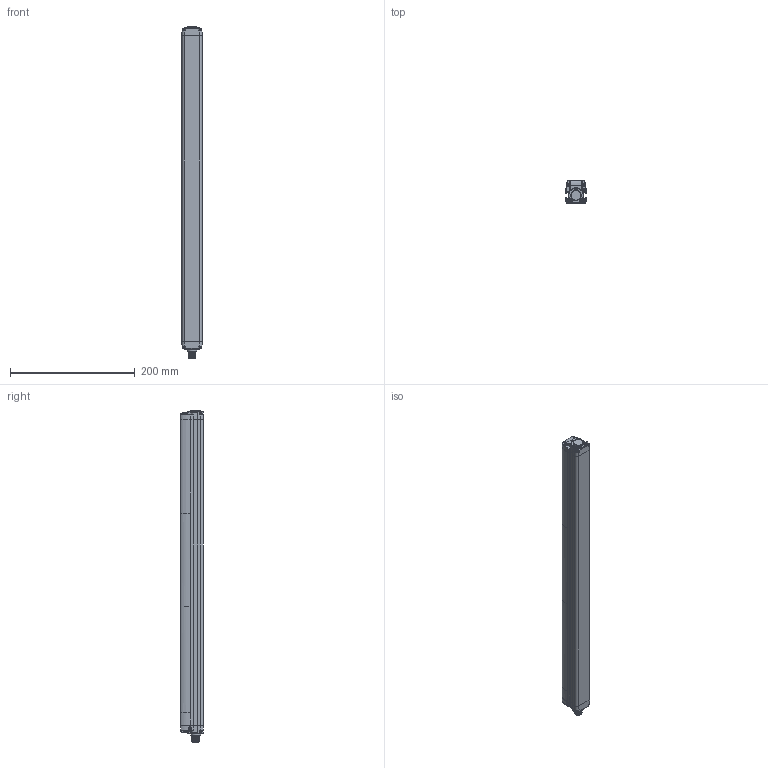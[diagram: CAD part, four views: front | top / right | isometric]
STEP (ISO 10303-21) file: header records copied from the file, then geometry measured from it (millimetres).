
FILE_DESCRIPTION(/* description */ (''),/* implementation_level */ '2;1');
FILE_NAME(/* name */ 'DSD-0147.stp',/* time_stamp */ '2020-07-15T15:19:34+02:00',/* author */ (''),/* organization */ (''),/* preprocessor_version */ 'ST-DEVELOPER v16.7',/* originating_system */ 'SIEMENS PLM Software NX 12.0',/* authorisation */ '');
FILE_SCHEMA (('AUTOMOTIVE_DESIGN { 1 0 10303 214 3 1 1 1 }'));
Products named in the file (1): AP025788_00_1-DSD-0147
Bounding box: 32.3 x 36.9 x 533.34 mm (x, y, z)
Volume: 507830.2 mm3; surface area: 127512.3 mm2
Topology: 12 solids, 716 shells, 1620 faces, 5081 edges, 4000 vertices
Faces by surface type: cylinder 606, bspline 554, plane 376, sphere 49, cone 27, torus 8
Full cylindrical faces by diameter (mm): 1 x8, 1.5 x6, 2 x6, 2.05 x4, 2.5 x12, 2.7 x10, 2.9 x6, 3 x12, 3.4 x6, 3.6 x12, 4.7 x2, 5 x10, 5.3 x2, 7.5 x1, 8 x1, 8.2 x1, 9.3 x1, 9.5 x1, 9.55 x1, 10.5 x1, 11 x2, 12 x12, 13.97 x1, 14.3 x1, 16 x2
Entity records: 83651 total; most frequent: CARTESIAN_POINT 35432, ORIENTED_EDGE 6882, DIRECTION 5921, EDGE_CURVE 4867, VERTEX_POINT 3994, AXIS2_PLACEMENT_3D 2314, EDGE_LOOP 1853, PRESENTATION_STYLE_ASSIGNMENT 1626
